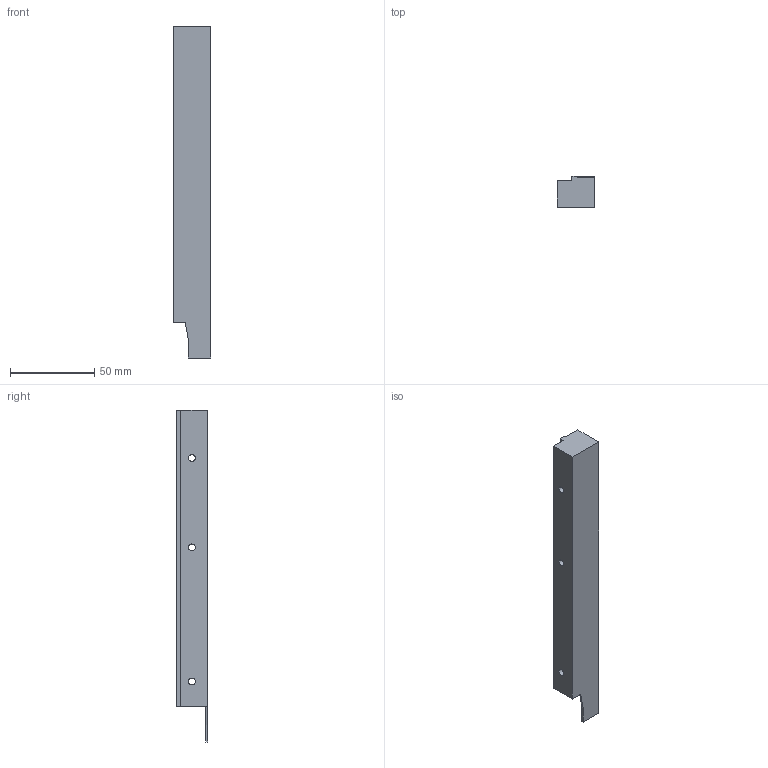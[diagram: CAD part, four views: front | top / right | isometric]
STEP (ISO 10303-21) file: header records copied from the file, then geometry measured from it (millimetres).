
FILE_DESCRIPTION (( 'STEP AP214' ), '1' );
FILE_NAME ('DWD-XP_Holzrueckwandadapter links H214 geschlossen.step', '2010-09-27T15:14:19', ( 'grass' ), ( '' ), 'SwSTEP 2.0', 'SolidWorks 2010', '' );
FILE_SCHEMA (( 'AUTOMOTIVE_DESIGN' ));
Length unit declared in the file: millimetre
Products named in the file (1): DWD-XP_Holzrueckwandadapter links H214 geschlossen
Bounding box: 22 x 18.5 x 197 mm (x, y, z)
Volume: 37359 mm3; surface area: 17271.1 mm2
Topology: 1 solids, 1 shells, 33 faces, 93 edges, 62 vertices
Faces by surface type: plane 23, cylinder 10
Entity records: 1121 total; most frequent: CARTESIAN_POINT 189, ORIENTED_EDGE 186, DIRECTION 181, EDGE_CURVE 93, VECTOR 73, LINE 73, VERTEX_POINT 62, AXIS2_PLACEMENT_3D 54
